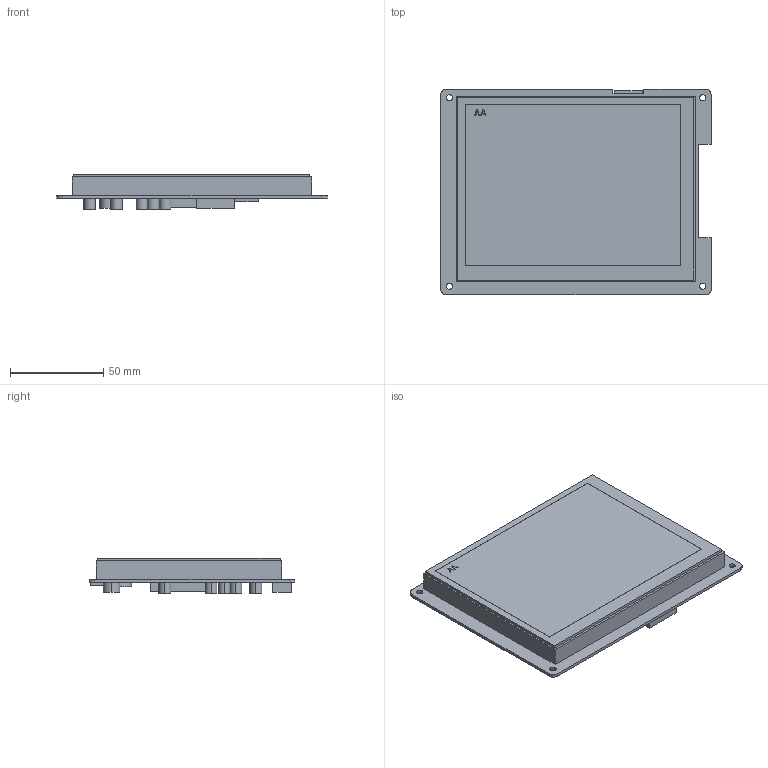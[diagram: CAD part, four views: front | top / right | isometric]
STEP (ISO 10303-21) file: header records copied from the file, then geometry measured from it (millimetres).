
FILE_DESCRIPTION((''),'2;1');
FILE_NAME('DMG64480T057_01W','2023-04-17T',('Administrator'),(''),'PRO/ENGINEER BY PARAMETRIC TECHNOLOGY CORPORATION, 2014320','PRO/ENGINEER BY PARAMETRIC TECHNOLOGY CORPORATION, 2014320','');
FILE_SCHEMA(('CONFIG_CONTROL_DESIGN','SHAPE_APPEARANCE_LAYERS_GROUPS'));
Length unit declared in the file: millimetre
Products named in the file (1): DMG64480T057_01W
Bounding box: 144.78 x 110.24 x 19.25 mm (x, y, z)
Volume: 176016 mm3; surface area: 59215.8 mm2
Topology: 2 solids, 4 shells, 136 faces, 334 edges, 222 vertices
Faces by surface type: plane 110, cylinder 26
Entity records: 4114 total; most frequent: CARTESIAN_POINT 704, ORIENTED_EDGE 668, DIRECTION 654, EDGE_CURVE 334, VECTOR 282, LINE 282, VERTEX_POINT 222, AXIS2_PLACEMENT_3D 186
